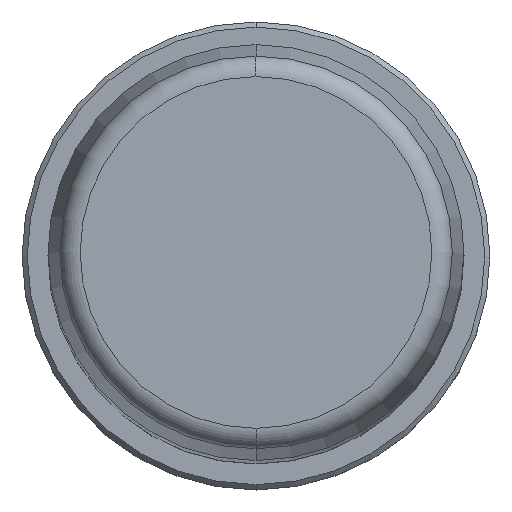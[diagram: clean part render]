
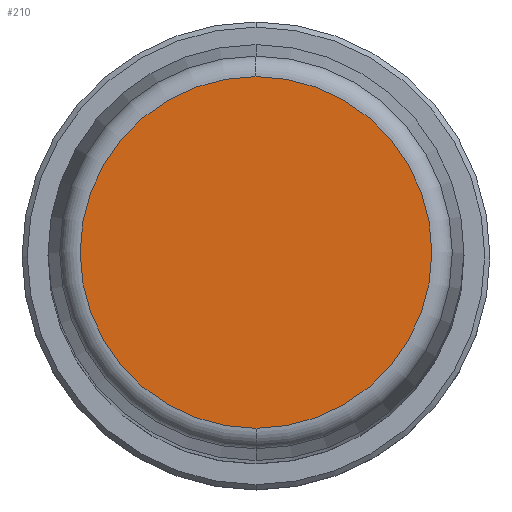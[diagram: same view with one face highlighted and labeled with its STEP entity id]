
A CAD part, top view. The second image highlights one B-rep face of the part: STEP entity #210.
In plain terms, the highlighted planar face has unit normal (0, 0, 1).
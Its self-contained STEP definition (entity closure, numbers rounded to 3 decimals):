
#1=CARTESIAN_POINT('',(0.,0.,200.));
#2=DIRECTION('',(0.,0.,-1.));
#3=DIRECTION('',(0.,-1.,0.));
#4=AXIS2_PLACEMENT_3D('',#1,#2,#3);
#6=CARTESIAN_POINT('',(0.,0.,200.));
#7=DIRECTION('',(0.,0.,-1.));
#8=DIRECTION('',(0.,1.,0.));
#9=AXIS2_PLACEMENT_3D('',#6,#7,#8);
#183=CARTESIAN_POINT('',(0.,-16.911,200.));
#184=CARTESIAN_POINT('',(0.,16.911,200.));
#185=VERTEX_POINT('',#183);
#186=VERTEX_POINT('',#184);
#199=CARTESIAN_POINT('',(0.,0.,200.));
#200=DIRECTION('',(0.,0.,1.));
#201=DIRECTION('',(0.,-1.,0.));
#202=AXIS2_PLACEMENT_3D('',#199,#200,#201);
#203=PLANE('',#202);
#205=ORIENTED_EDGE('',*,*,#204,.T.);
#207=ORIENTED_EDGE('',*,*,#206,.T.);
#208=EDGE_LOOP('',(#205,#207));
#209=FACE_OUTER_BOUND('',#208,.F.);
#210=ADVANCED_FACE('',(#209),#203,.T.);
#5=CIRCLE('',#4,16.911);
#10=CIRCLE('',#9,16.911);
#204=EDGE_CURVE('',#185,#186,#5,.T.);
#206=EDGE_CURVE('',#186,#185,#10,.T.);
